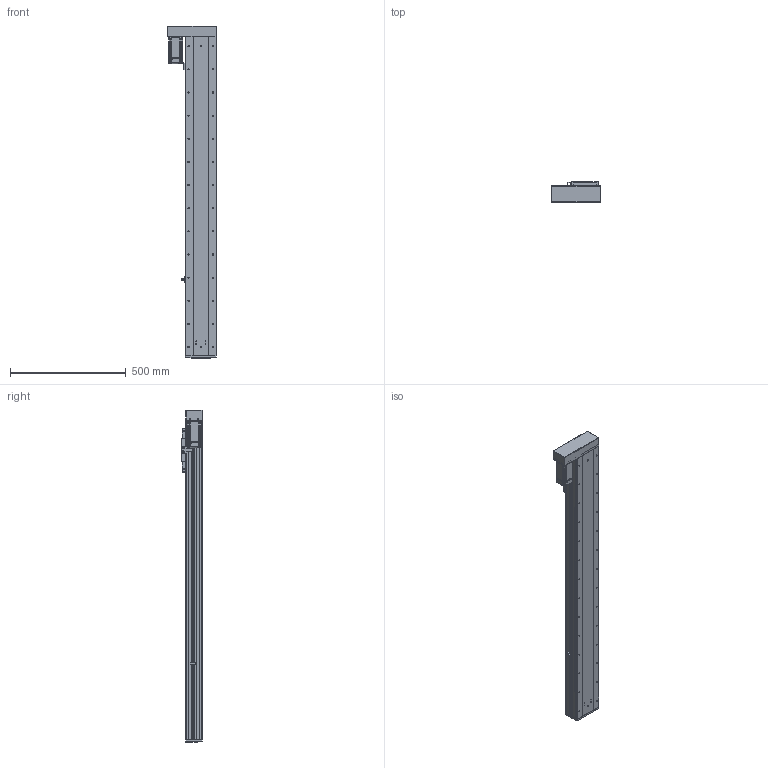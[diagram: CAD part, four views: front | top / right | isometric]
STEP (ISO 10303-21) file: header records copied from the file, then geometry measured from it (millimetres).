
FILE_DESCRIPTION (( 'STEP AP203' ), '1' );
FILE_NAME ('RY140F-L2020-300-LK.SLDASM_1100.step', '2021-03-02T08:37:47', ( '盈信电脑' ), ( '东莞市道滘镇水果街19号' ), 'SwSTEP 2.0', 'SolidWorks 2012', '' );
FILE_SCHEMA (( 'CONFIG_CONTROL_DESIGN' ));
Products named in the file (19): RY140F-L2020-300-LK.SLDASM_1100; RY140F-酘衵殏萇儂欶(400W); 侐源滅袉蝶; RY140F-转折折电机座（7001）; RY140F-左右折电机安装板(400W M5); RY140F-672覜茼んえ; 覜茼ん672; 侂狟400W侜督萇儂; RY140F-詩湍揤え; RY140F-直连型材铝滑块(16丝杆); RY100F-詩湍揤踡謫; 15; RY140F-后盖板(铝件）; RY140F-直连型材铝滑块连接座; RY140F-詩湍幗謫粣; RY140F-滅鳥奻裔; RY140F-300-LK倰第菁釱_1100; RY140F-300-LK蛌殏詩湍_1100; RY140F-300-LK倰第奻裔啣_1100
Assembly tree (23 placements, depth 3):
  RY140F-L2020-300-LK.SLDASM_1100
    RY140F-300-LK倰第菁釱_1100
    RY140F-300-LK倰第奻裔啣_1100  x2
    RY140F-300-LK蛌殏詩湍_1100
    RY140F-直连型材铝滑块连接座
    RY140F-滅鳥奻裔
    RY140F-詩湍幗謫粣
    RY100F-詩湍揤踡謫
    RY140F-直连型材铝滑块(16丝杆)
    RY140F-后盖板(铝件）
    侂狟400W侜督萇儂
      15
    覜茼ん672
    RY140F-672覜茼んえ
    RY140F-詩湍揤え  x2
    侐源滅袉蝶  x4
    RY140F-转折折电机座（7001）
    RY140F-左右折电机安装板(400W M5)
    RY140F-酘衵殏萇儂欶(400W)
Bounding box: 211 x 91 x 1434 mm (x, y, z)
Volume: 5270091.1 mm3; surface area: 1889840.4 mm2
Topology: 22 solids, 22 shells, 2117 faces, 5765 edges, 3638 vertices
Faces by surface type: cylinder 1040, plane 789, cone 258, bspline 26, torus 4
Entity records: 66587 total; most frequent: CARTESIAN_POINT 13967, DIRECTION 10742, ORIENTED_EDGE 10354, EDGE_CURVE 5177, AXIS2_PLACEMENT_3D 3877, VERTEX_POINT 3378, LINE 2988, VECTOR 2988
